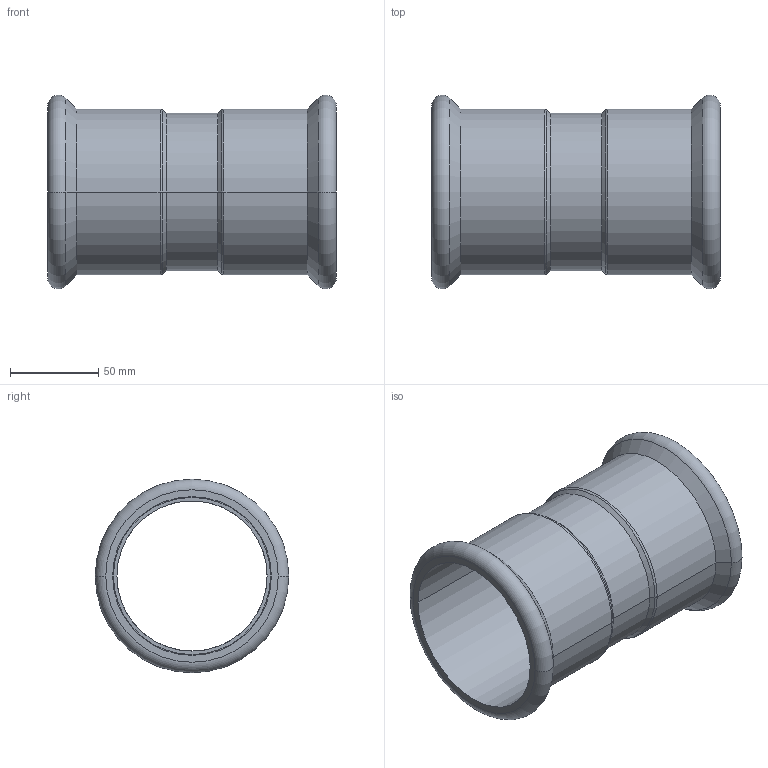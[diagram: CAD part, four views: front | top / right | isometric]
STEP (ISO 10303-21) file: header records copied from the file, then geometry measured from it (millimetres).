
FILE_DESCRIPTION(('CoCreate Modeling STEP Export'),'2;1');
FILE_NAME('C1401 88.9x88.9.stp','2014-11-06T16:53:22',(''),(''),'CoCreate Modeling STEP processor for AP214 (Solid Model)','CoCreate Modeling 17.00A 17-Jun-2010 (C) Parametric Technology GmbH','');
FILE_SCHEMA(('AUTOMOTIVE_DESIGN { 1 0 10303 214 1 1 1 1 }'));
Length unit declared in the file: millimetre
Products named in the file (2): C1401_89x89
Assembly tree (1 placements, depth 2):
  C1401_89x89
    C1401_89x89
Bounding box: 163 x 109.48 x 109.48 mm (x, y, z)
Volume: 152655.1 mm3; surface area: 102749.4 mm2
Topology: 1 solids, 1 shells, 38 faces, 78 edges, 46 vertices
Faces by surface type: cylinder 16, cone 8, torus 8, plane 6
Entity records: 861 total; most frequent: ORIENTED_EDGE 156, DIRECTION 132, CARTESIAN_POINT 124, EDGE_CURVE 78, AXIS2_PLACEMENT_3D 54, VERTEX_POINT 46, EDGE_LOOP 44, FACE_OUTER_BOUND 38
